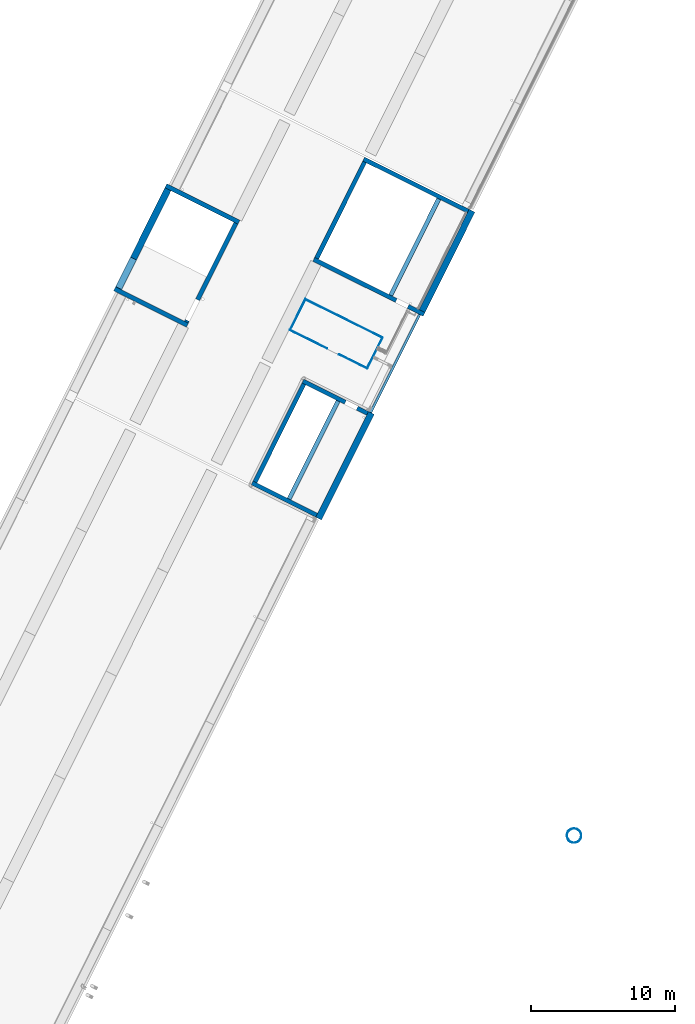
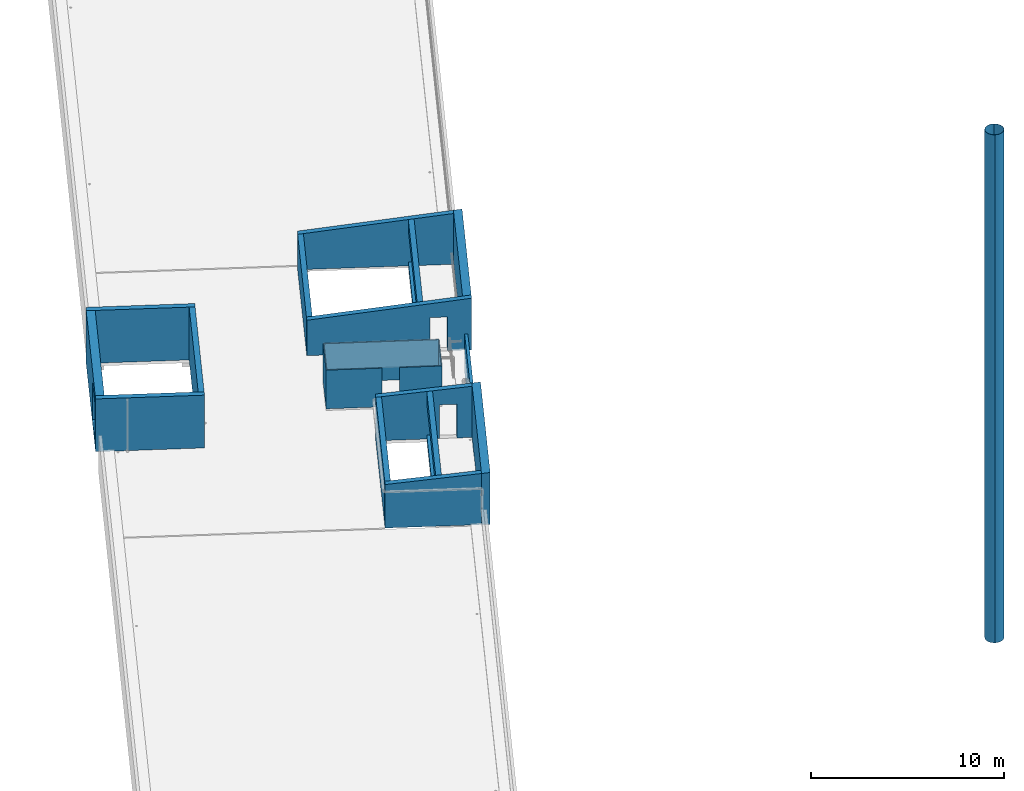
# One storey, part 5 of 34: 24 walls, 4 openings.
"""IFC2X3 building model written with IfcOpenShell, lengths in metres."""

from ifc_helpers import new_model, entity, si_unit, converted_unit, derived_unit, direction, frame, frame_2d, origin, origin_2d_with_axis, place, context, subcontext, project, spatial, polyline, circle_curve, parameter, trimmed, segment, composite_curve, rectangle, outline, extrude, clip, bounded_halfspace, material, layer, layer_set, layer_usage, type_object, element, save


model = new_model("IFC2X3")

# Units and contexts
model_context = context("Model", 3, precision=1e-05, world=origin(), true_north=direction((0.894925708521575, 0.446215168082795)))
context_of_model = context(None, 3, precision=1e-05, world=origin(), true_north=direction((0.894925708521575, 0.446215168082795)))
body_context = subcontext(model_context, "Body", "Model", "MODEL_VIEW")
ifc_project = project(units=[si_unit("LENGTHUNIT", "METRE"), si_unit("AREAUNIT", "SQUARE_METRE"), si_unit("VOLUMEUNIT", "CUBIC_METRE"), converted_unit("PLANEANGLEUNIT", "DEGREE", entity("IfcRatioMeasure", 0.0174532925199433), si_unit("PLANEANGLEUNIT", "RADIAN"), dimensions=[0, 0, 0, 0, 0, 0, 0]), si_unit("MASSUNIT", "GRAM", prefix="KILO"), si_unit("TIMEUNIT", "SECOND"), si_unit("FREQUENCYUNIT", "HERTZ"), si_unit("THERMODYNAMICTEMPERATUREUNIT", "DEGREE_CELSIUS"), derived_unit("THERMALTRANSMITTANCEUNIT", [(si_unit("MASSUNIT", "GRAM", prefix="KILO"), 1), (si_unit("THERMODYNAMICTEMPERATUREUNIT", "KELVIN"), -1), (si_unit("TIMEUNIT", "SECOND"), -3)]), derived_unit("VOLUMETRICFLOWRATEUNIT", [(si_unit("LENGTHUNIT", "METRE"), 3), (si_unit("TIMEUNIT", "SECOND"), -1)]), si_unit("ELECTRICCURRENTUNIT", "AMPERE"), si_unit("ELECTRICVOLTAGEUNIT", "VOLT"), si_unit("POWERUNIT", "WATT"), si_unit("FORCEUNIT", "NEWTON", prefix="KILO"), si_unit("ILLUMINANCEUNIT", "LUX"), si_unit("LUMINOUSFLUXUNIT", "LUMEN"), si_unit("LUMINOUSINTENSITYUNIT", "CANDELA"), si_unit("PRESSUREUNIT", "PASCAL")], contexts=[model_context, context_of_model])

# Site, building, storey
site_placement = place(None, frame((218.228324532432, 584.720189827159, 0.0), z_axis=(0.0, 0.0, 1.0), x_axis=(0.446215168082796, 0.894925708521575, 0.0)))
site = spatial("IfcSite", under=ifc_project, at=site_placement, Name="Default", CompositionType="ELEMENT")
building_placement = place(site_placement, origin())
building = spatial("IfcBuilding", under=site, at=building_placement, CompositionType="ELEMENT")
storey_placement = place(building_placement, frame((0.0, 0.0, 8.61)))
storey = spatial("IfcBuildingStorey", under=building, at=storey_placement, Name="2 - Piano Secondo", CompositionType="ELEMENT", Elevation=8.61)

# Wall, opening
ifc_material_1 = material(Name="Alluminio")
ifc_layer_1 = layer(ifc_material_1, 0.15)
ifc_material_2 = material(Name="Default - Calcestruzzo")
ifc_layer_2 = layer(ifc_material_2, 0.3)
ifc_material_3 = material(Name="Intonaco - Bianco")
ifc_layer_3 = layer(ifc_material_3, 0.02)
ifc_layer_set_1 = layer_set([ifc_layer_1, ifc_layer_2, ifc_layer_3], Name="Muro di base:Setto CA rivestito int-est 47 cm")
ifc_layer_usage_1 = layer_usage(ifc_layer_set_1, "AXIS2", "NEGATIVE", 0.235)
wall_type_1 = type_object("IfcWallType", Name="Muro di base:Setto CA rivestito int-est 47 cm", PredefinedType="STANDARD", material=ifc_layer_set_1)
wall_1_placement = place(storey_placement, frame((-4.67578502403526, 6.22392100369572, 0.0)))
wall_1 = element("IfcWallStandardCase", 1, at=wall_1_placement, inside=storey, type_object=wall_type_1, material=ifc_layer_usage_1, Name="Muro di base:Setto CA rivestito int-est 47 cm", ObjectType="Muro di base:Setto CA rivestito int-est 47 cm", context=body_context, shape_type="SweptSolid", body=[
    extrude(rectangle(XDim=7.68000000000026, YDim=0.469999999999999, at=frame_2d((3.84000000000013, 0.0), x_axis=(-1.0, 0.0))), origin(), (0.0, 0.0, 1.0), 3.34),
])
opening_1_placement = place(wall_1_placement, frame((0.0100000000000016, -1.289, 0.200000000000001)))
element("IfcOpeningElement", 2, at=opening_1_placement, cuts=wall_1, Name="Muro di base:Setto CA rivestito int-est 47 cm", ObjectType="Opening", context=body_context, shape_type="SweptSolid", body=[
    extrude(rectangle(XDim=2.47, YDim=2.3, at=frame_2d((1.11022302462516e-15, 0.0), x_axis=(1.0, 0.0))), frame((1.15, 0.0, 1.235), z_axis=(0.0, 1.0, 0.0), x_axis=(0.0, 0.0, -1.0)), (0.0, 0.0, 1.0), 3.048),
])

# Walls
ifc_layer_4 = layer(ifc_material_2, 0.3)
ifc_layer_5 = layer(ifc_material_3, 0.01)
ifc_layer_set_2 = layer_set([ifc_layer_4, ifc_layer_5], Name="Muro di base:Setto CA rivestito int - 31 cm")
ifc_layer_usage_2 = layer_usage(ifc_layer_set_2, "AXIS2", "NEGATIVE", 0.155)
wall_type_2 = type_object("IfcWallType", Name="Muro di base:Setto CA rivestito int - 31 cm", PredefinedType="STANDARD", material=ifc_layer_set_2)
wall_2_placement = place(storey_placement, frame((-4.83078502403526, 0.798921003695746, 0.0), z_axis=(0.0, 0.0, 1.0), x_axis=(0.0, 1.0, 0.0)))
element("IfcWallStandardCase", 3, at=wall_2_placement, inside=storey, type_object=wall_type_2, material=ifc_layer_usage_2, Name="Muro di base:Setto CA rivestito int - 31 cm", ObjectType="Muro di base:Setto CA rivestito int - 31 cm", context=body_context, shape_type="SweptSolid", body=[
    extrude(rectangle(XDim=5.65999999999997, YDim=0.31, at=frame_2d((2.82999999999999, 0.0), x_axis=(-1.0, 0.0))), origin(), (0.0, 0.0, 1.0), 3.34),
])
ifc_layer_usage_3 = layer_usage(ifc_layer_set_2, "AXIS2", "NEGATIVE", 0.155)
wall_3_placement = place(storey_placement, frame((3.159214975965, 6.45892100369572, 0.0), z_axis=(0.0, 0.0, 1.0), x_axis=(0.0, -1.0, 0.0)))
element("IfcWallStandardCase", 4, at=wall_3_placement, inside=storey, type_object=wall_type_2, material=ifc_layer_usage_3, Name="Muro di base:Setto CA rivestito int - 31 cm", ObjectType="Muro di base:Setto CA rivestito int - 31 cm", context=body_context, shape_type="SweptSolid", body=[
    extrude(rectangle(XDim=5.65999999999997, YDim=0.31, at=frame_2d((2.82999999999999, 0.0), x_axis=(-1.0, 0.0))), origin(), (0.0, 0.0, 1.0), 3.34),
])

# Wall, opening
ifc_layer_usage_4 = layer_usage(ifc_layer_set_2, "AXIS2", "NEGATIVE", 0.155)
wall_4_placement = place(storey_placement, frame((3.004214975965, 0.953921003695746, 0.0), z_axis=(0.0, 0.0, 1.0), x_axis=(-1.0, 0.0, 0.0)))
wall_4 = element("IfcWallStandardCase", 5, at=wall_4_placement, inside=storey, type_object=wall_type_2, material=ifc_layer_usage_4, Name="Muro di base:Setto CA rivestito int - 31 cm", ObjectType="Muro di base:Setto CA rivestito int - 31 cm", context=body_context, shape_type="SweptSolid", body=[
    extrude(rectangle(XDim=7.68000000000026, YDim=0.31, at=frame_2d((3.84000000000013, 0.0), x_axis=(-1.0, 0.0))), origin(), (0.0, 0.0, 1.0), 3.34),
])
opening_2_placement = place(wall_4_placement, frame((7.55000000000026, 1.369, 0.0)))
element("IfcOpeningElement", 6, at=opening_2_placement, cuts=wall_4, Name="Muro di base:Setto CA rivestito int - 31 cm", ObjectType="Opening", context=body_context, shape_type="SweptSolid", body=[
    extrude(rectangle(XDim=2.15, YDim=1.6, at=frame_2d((0.0, 0.0), x_axis=(0.0, 1.0))), frame((-0.8, -3.048, 1.075), z_axis=(0.0, 1.0, 0.0), x_axis=(1.0, 0.0, 0.0)), (0.0, 0.0, 1.0), 3.048),
])

# Walls
ifc_layer_6 = layer(ifc_material_1, 0.15)
ifc_layer_7 = layer(ifc_material_2, 0.3)
ifc_layer_set_3 = layer_set([ifc_layer_6, ifc_layer_7], Name="Muro di base:Setto CA rivestito est 45")
ifc_layer_usage_5 = layer_usage(ifc_layer_set_3, "AXIS2", "NEGATIVE", 0.225)
wall_type_3 = type_object("IfcWallType", Name="Muro di base:Setto CA rivestito est 45", PredefinedType="NOTDEFINED")
wall_5_placement = place(storey_placement, frame((-4.58437167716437, -13.3360789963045, 0.0), z_axis=(0.0, 0.0, 1.0), x_axis=(-1.0, 0.0, 0.0)))
element("IfcWallStandardCase", 7, at=wall_5_placement, inside=storey, type_object=wall_type_3, material=ifc_layer_usage_5, Name="Muro di base:Setto CA rivestito est 45", ObjectType="Muro di base:Setto CA rivestito est 45", context=body_context, shape_type="Clipping", body=[
    clip(extrude(rectangle(XDim=8.1999999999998, YDim=0.450000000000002, at=frame_2d((4.0999999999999, 9.43689570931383e-16), x_axis=(-1.0, 0.0))), origin(), (0.0, 0.0, 1.0), 3.92), bounded_halfspace(frame((0.0, -0.224999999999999, 3.23647100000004), z_axis=(0.0, -0.0966454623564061, 0.995318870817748), x_axis=(1.0, 0.0, 0.0)), False, frame((0.0, -0.224999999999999, 3.23647100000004)), polyline([(0.0, 0.0), (0.3, 0.0), (7.8999999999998, 0.0), (8.1999999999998, 0.0), (8.1999999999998, 0.450000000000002), (0.0, 0.45), (0.0, 0.0)]))),
])
ifc_layer_usage_6 = layer_usage(ifc_layer_set_3, "AXIS2", "NEGATIVE", 0.225)
wall_6_placement = place(storey_placement, frame((11.0942149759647, -13.3360789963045, 0.0), z_axis=(0.0, 0.0, 1.0), x_axis=(-1.0, 0.0, 0.0)))
element("IfcWallStandardCase", 8, at=wall_6_placement, inside=storey, type_object=wall_type_3, material=ifc_layer_usage_6, Name="Muro di base:Setto CA rivestito est 45", ObjectType="Muro di base:Setto CA rivestito est 45", context=body_context, shape_type="Clipping", body=[
    clip(extrude(rectangle(XDim=7.77999999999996, YDim=0.450000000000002, at=frame_2d((3.88999999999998, 4.71844785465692e-16), x_axis=(-1.0, 0.0))), origin(), (0.0, 0.0, 1.0), 3.92), bounded_halfspace(frame((0.0, -0.224999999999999, 3.21587629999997), z_axis=(0.0, -0.119468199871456, 0.992838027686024), x_axis=(1.0, 0.0, 0.0)), False, frame((0.0, -0.224999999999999, 3.21587629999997)), polyline([(0.0, 0.0), (0.299999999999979, 0.0), (7.77999999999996, 0.0), (7.77999999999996, 0.45), (0.0, 0.45), (0.0, 0.0)]))),
])
ifc_layer_8 = layer(ifc_material_2, 0.3)
ifc_layer_set_4 = layer_set([ifc_layer_8], Name="Muro di base:Setto CA - 30 cm")
ifc_layer_usage_7 = layer_usage(ifc_layer_set_4, "AXIS2", "NEGATIVE", 0.15)
wall_type_4 = type_object("IfcWallType", Name="Muro di base:Setto CA - 30 cm", PredefinedType="STANDARD", material=ifc_layer_set_4)
wall_7_placement = place(storey_placement, frame((-12.4843716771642, -10.9010789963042, 2.25)))
element("IfcWallStandardCase", 9, at=wall_7_placement, inside=storey, type_object=wall_type_4, material=ifc_layer_usage_7, Name="Muro di base:Setto CA - 30 cm", ObjectType="Muro di base:Setto CA - 30 cm", context=body_context, shape_type="Clipping", body=[
    clip(extrude(rectangle(XDim=7.5999999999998, YDim=0.300000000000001, at=frame_2d((3.7999999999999, -3.88578058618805e-16), x_axis=(-1.0, 0.0))), origin(), (0.0, 0.0, 1.0), 0.786445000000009), bounded_halfspace(frame((0.0, -0.149999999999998, 0.786445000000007), z_axis=(0.0, 0.0966454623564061, 0.995318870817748), x_axis=(-1.0, 0.0, 0.0)), False, frame((0.0, -0.149999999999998, 0.786445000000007)), polyline([(0.0, 0.0), (7.5999999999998, 0.0), (7.5999999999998, 0.299999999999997), (0.0, 0.299999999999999), (0.0, 0.0)]))),
])
ifc_layer_usage_8 = layer_usage(ifc_layer_set_4, "AXIS2", "NEGATIVE", 0.15)
wall_8_placement = place(storey_placement, frame((-12.6343716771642, -13.1110789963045, 0.0), z_axis=(0.0, 0.0, 1.0), x_axis=(0.0, 1.0, 0.0)))
element("IfcWallStandardCase", 10, at=wall_8_placement, inside=storey, type_object=wall_type_4, material=ifc_layer_usage_8, Name="Muro di base:Setto CA - 30 cm", ObjectType="Muro di base:Setto CA - 30 cm", context=body_context, shape_type="Clipping", body=[
    clip(extrude(rectangle(XDim=5.01000000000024, YDim=0.300000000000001, at=frame_2d((2.50500000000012, -5.41233724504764e-16), x_axis=(-1.0, 0.0))), origin(), (0.0, 0.0, 1.0), 3.92), bounded_halfspace(frame((0.0, -0.149999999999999, 3.23647100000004), z_axis=(0.0966454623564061, 0.0, 0.995318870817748), x_axis=(0.0, 1.0, 0.0)), False, frame((0.0, -0.149999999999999, 3.23647100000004)), polyline([(0.0, 0.0), (2.06000000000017, 0.0), (2.36000000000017, 0.0), (4.71000000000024, 0.0), (5.01000000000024, 0.0), (5.01000000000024, 0.299999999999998), (0.0, 0.299999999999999), (0.0, 0.0)]))),
])

# Wall, opening
ifc_layer_usage_9 = layer_usage(ifc_layer_set_4, "AXIS2", "NEGATIVE", 0.15)
wall_9_placement = place(storey_placement, frame((-4.73437167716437, -8.10107899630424, 0.0), z_axis=(0.0, 0.0, 1.0), x_axis=(0.0, -1.0, 0.0)))
wall_9 = element("IfcWallStandardCase", 11, at=wall_9_placement, inside=storey, type_object=wall_type_4, material=ifc_layer_usage_9, Name="Muro di base:Setto CA - 30 cm", ObjectType="Muro di base:Setto CA - 30 cm", context=body_context, shape_type="Clipping", body=[
    clip(extrude(rectangle(XDim=5.01000000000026, YDim=0.3, at=frame_2d((2.50500000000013, 0.0), x_axis=(-1.0, 0.0))), origin(), (0.0, 0.0, 1.0), 3.92), bounded_halfspace(frame((0.0, -0.15, 2.75), z_axis=(-0.0966454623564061, 0.0, 0.995318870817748), x_axis=(0.0, -1.0, 0.0)), False, frame((0.0, -0.15, 2.75)), polyline([(0.0, 0.0), (0.300000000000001, 0.0), (2.65000000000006, 0.0), (2.95000000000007, 0.0), (5.01000000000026, 0.0), (5.01000000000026, 0.3), (0.0, 0.3), (0.0, 0.0)]))),
])
opening_3_placement = place(wall_9_placement, frame((4.2150000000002, -1.674, 0.0)))
element("IfcOpeningElement", 12, at=opening_3_placement, cuts=wall_9, Name="Muro di base:Setto CA - 30 cm", ObjectType="Opening", context=body_context, shape_type="SweptSolid", body=[
    extrude(rectangle(XDim=2.134, YDim=0.915, at=frame_2d((0.0, 0.0), x_axis=(0.0, 1.0))), frame((-0.457500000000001, 0.0, 1.067), z_axis=(0.0, 1.0, 0.0), x_axis=(1.0, 0.0, 0.0)), (0.0, 0.0, 1.0), 3.048),
])

# Wall
ifc_layer_usage_10 = layer_usage(ifc_layer_set_4, "AXIS2", "NEGATIVE", 0.15)
wall_10_placement = place(storey_placement, frame((-12.4843716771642, -8.25107899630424, 0.0)))
element("IfcWallStandardCase", 13, at=wall_10_placement, inside=storey, type_object=wall_type_4, material=ifc_layer_usage_10, Name="Muro di base:Setto CA - 30 cm", ObjectType="Muro di base:Setto CA - 30 cm", context=body_context, shape_type="Clipping", body=[
    clip(extrude(rectangle(XDim=7.59999999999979, YDim=0.299999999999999, at=frame_2d((3.7999999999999, 0.0), x_axis=(-1.0, 0.0))), origin(), (0.0, 0.0, 1.0), 3.92), bounded_halfspace(frame((0.0, -0.150000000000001, 2.77913), z_axis=(0.0, 0.0966454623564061, 0.995318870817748), x_axis=(-1.0, 0.0, 0.0)), False, frame((0.0, -0.150000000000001, 2.77913)), polyline([(0.0, 0.0), (7.59999999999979, 0.0), (7.59999999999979, 0.3), (0.0, 0.3), (0.0, 0.0)]))),
])

# Wall, opening
ifc_layer_usage_11 = layer_usage(ifc_layer_set_4, "AXIS2", "NEGATIVE", 0.15)
wall_11_placement = place(storey_placement, frame((3.16421497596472, -13.5610789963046, 0.0), z_axis=(0.0, 0.0, 1.0), x_axis=(0.0, 1.0, 0.0)))
wall_11 = element("IfcWallStandardCase", 14, at=wall_11_placement, inside=storey, type_object=wall_type_4, material=ifc_layer_usage_11, Name="Muro di base:Setto CA - 30 cm", ObjectType="Muro di base:Setto CA - 30 cm", context=body_context, shape_type="Clipping", body=[
    clip(extrude(rectangle(XDim=8.56000000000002, YDim=0.3, at=frame_2d((4.28000000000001, 0.0), x_axis=(-1.0, 0.0))), origin(), (0.0, 0.0, 1.0), 3.92), bounded_halfspace(frame((0.0, -0.15, 3.27002479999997), z_axis=(0.119468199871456, 0.0, 0.992838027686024), x_axis=(0.0, 1.0, 0.0)), False, frame((0.0, -0.15, 3.27002479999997)), polyline([(0.0, 0.0), (0.449999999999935, 0.0), (2.51000000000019, 0.0), (2.8100000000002, 0.0), (8.26000000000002, 0.0), (8.56000000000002, 0.0), (8.56000000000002, 0.3), (0.0, 0.3), (0.0, 0.0)]))),
])
opening_4_placement = place(wall_11_placement, frame((1.24500000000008, 1.674, 0.0)))
element("IfcOpeningElement", 15, at=opening_4_placement, cuts=wall_11, Name="Muro di base:Setto CA - 30 cm", ObjectType="Opening", context=body_context, shape_type="SweptSolid", body=[
    extrude(rectangle(XDim=2.134, YDim=0.915, at=origin_2d_with_axis()), frame((0.4575, -3.048, 1.067), z_axis=(0.0, 1.0, 0.0), x_axis=(0.0, 0.0, -1.0)), (0.0, 0.0, 1.0), 3.048),
])

# Walls
ifc_layer_usage_12 = layer_usage(ifc_layer_set_4, "AXIS2", "NEGATIVE", 0.15)
wall_12_placement = place(storey_placement, frame((10.9442149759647, -5.00107899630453, 0.0), z_axis=(0.0, 0.0, 1.0), x_axis=(0.0, -1.0, 0.0)))
element("IfcWallStandardCase", 16, at=wall_12_placement, inside=storey, type_object=wall_type_4, material=ifc_layer_usage_12, Name="Muro di base:Setto CA - 30 cm", ObjectType="Muro di base:Setto CA - 30 cm", context=body_context, shape_type="Clipping", body=[
    clip(extrude(rectangle(XDim=8.10999999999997, YDim=0.300000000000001, at=frame_2d((4.05499999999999, -3.46944695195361e-16), x_axis=(-1.0, 0.0))), origin(), (0.0, 0.0, 1.0), 3.92), bounded_halfspace(frame((0.0, -0.149999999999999, 2.24), z_axis=(-0.119468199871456, 0.0, 0.992838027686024), x_axis=(0.0, -1.0, 0.0)), False, frame((0.0, -0.149999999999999, 2.24)), polyline([(0.0, 0.0), (0.300000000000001, 0.0), (5.74999999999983, 0.0), (6.04999999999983, 0.0), (8.10999999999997, 0.0), (8.10999999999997, 0.299999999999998), (0.0, 0.299999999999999), (0.0, 0.0)]))),
])
ifc_layer_usage_13 = layer_usage(ifc_layer_set_4, "AXIS2", "NEGATIVE", 0.15)
wall_13_placement = place(storey_placement, frame((3.31421497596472, -5.15107899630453, 0.0)))
element("IfcWallStandardCase", 17, at=wall_13_placement, inside=storey, type_object=wall_type_4, material=ifc_layer_usage_13, Name="Muro di base:Setto CA - 30 cm", ObjectType="Muro di base:Setto CA - 30 cm", context=body_context, shape_type="Clipping", body=[
    clip(extrude(rectangle(XDim=7.47999999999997, YDim=0.299999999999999, at=frame_2d((3.73999999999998, 5.55111512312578e-17), x_axis=(-1.0, 0.0))), origin(), (0.0, 0.0, 1.0), 3.92), bounded_halfspace(frame((0.0, -0.150000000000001, 2.276099), z_axis=(0.0, 0.119468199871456, 0.992838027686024), x_axis=(-1.0, 0.0, 0.0)), False, frame((0.0, -0.150000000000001, 2.276099)), polyline([(0.0, 0.0), (7.47999999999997, 0.0), (7.47999999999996, 0.3), (0.0, 0.3), (0.0, 0.0)]))),
])
ifc_layer_usage_14 = layer_usage(ifc_layer_set_4, "AXIS2", "NEGATIVE", 0.15)
wall_14_placement = place(storey_placement, frame((-12.4843716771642, -10.9010789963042, 0.0)))
element("IfcWallStandardCase", 18, at=wall_14_placement, inside=storey, type_object=wall_type_4, material=ifc_layer_usage_14, Name="Muro di base:Setto CA - 30 cm", ObjectType="Muro di base:Setto CA - 30 cm", context=body_context, shape_type="SweptSolid", body=[
    extrude(rectangle(XDim=7.5999999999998, YDim=0.300000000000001, at=frame_2d((3.7999999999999, -3.88578058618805e-16), x_axis=(-1.0, 0.0))), origin(), (0.0, 0.0, 1.0), 0.249999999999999),
])
ifc_layer_usage_15 = layer_usage(ifc_layer_set_4, "AXIS2", "NEGATIVE", 0.15)
wall_15_placement = place(storey_placement, frame((3.31421497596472, -10.9010789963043, 2.25)))
element("IfcWallStandardCase", 19, at=wall_15_placement, inside=storey, type_object=wall_type_4, material=ifc_layer_usage_15, Name="Muro di base:Setto CA - 30 cm", ObjectType="Muro di base:Setto CA - 30 cm", context=body_context, shape_type="Clipping", body=[
    clip(extrude(rectangle(XDim=7.47999999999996, YDim=0.300000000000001, at=frame_2d((3.73999999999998, 5.13478148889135e-16), x_axis=(-1.0, 0.0))), origin(), (0.0, 0.0, 1.0), 0.717996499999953), bounded_halfspace(frame((0.0, -0.149999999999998, 0.717996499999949), z_axis=(0.0, 0.119468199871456, 0.992838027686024), x_axis=(-1.0, 0.0, 0.0)), False, frame((0.0, -0.149999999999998, 0.717996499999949)), polyline([(0.0, 0.0), (7.47999999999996, 0.0), (7.47999999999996, 0.299999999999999), (0.0, 0.299999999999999), (0.0, 0.0)]))),
])
ifc_layer_usage_16 = layer_usage(ifc_layer_set_4, "AXIS2", "NEGATIVE", 0.15)
wall_16_placement = place(storey_placement, frame((3.31421497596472, -10.9010789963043, 0.0)))
element("IfcWallStandardCase", 20, at=wall_16_placement, inside=storey, type_object=wall_type_4, material=ifc_layer_usage_16, Name="Muro di base:Setto CA - 30 cm", ObjectType="Muro di base:Setto CA - 30 cm", context=body_context, shape_type="SweptSolid", body=[
    extrude(rectangle(XDim=7.47999999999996, YDim=0.300000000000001, at=frame_2d((3.73999999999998, -5.68989300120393e-16), x_axis=(-1.0, 0.0))), origin(), (0.0, 0.0, 1.0), 0.249999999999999),
])
ifc_layer_9 = layer(ifc_material_2, 0.17)
ifc_layer_set_5 = layer_set([ifc_layer_9], Name="Muro di base:Pannelli Pref - 17 cm")
ifc_layer_usage_17 = layer_usage(ifc_layer_set_5, "AXIS2", "NEGATIVE", 0.085)
wall_type_5 = type_object("IfcWallType", Name="Muro di base:Pannelli Pref - 17 cm", PredefinedType="STANDARD", material=ifc_layer_set_5)
wall_17_placement = place(storey_placement, frame((3.01421497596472, -13.2860789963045, -1.39), z_axis=(0.0, 0.0, 1.0), x_axis=(-1.0, 0.0, 0.0)))
element("IfcWallStandardCase", 21, at=wall_17_placement, inside=storey, type_object=wall_type_5, material=ifc_layer_usage_17, Name="Muro di base:Pannelli Pref - 17 cm", ObjectType="Muro di base:Pannelli Pref - 17 cm", context=body_context, shape_type="SweptSolid", body=[
    extrude(rectangle(XDim=7.59858665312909, YDim=0.17, at=frame_2d((3.79929332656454, 0.0), x_axis=(-1.0, 0.0))), origin(), (0.0, 0.0, 1.0), 2.4),
])
ifc_layer_10 = layer(ifc_material_1, 0.01)
ifc_layer_set_6 = layer_set([ifc_layer_10], Name="Muro di base:Lamierino")
ifc_layer_usage_18 = layer_usage(ifc_layer_set_6, "AXIS2", "POSITIVE", -0.00500000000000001)
wall_type_6 = type_object("IfcWallType", Name="Muro di base:Lamierino", PredefinedType="STANDARD", material=ifc_layer_set_6)
wall_18_placement = place(storey_placement, frame((-24.0736643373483, -39.0310243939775, 0.0)))
element("IfcWallStandardCase", 22, at=wall_18_placement, inside=storey, type_object=wall_type_6, material=ifc_layer_usage_18, Name="Muro di base:Lamierino", ObjectType="Muro di base:Lamierino", context=body_context, shape_type="SweptSolid", body=[
    extrude(outline(composite_curve([segment(trimmed(circle_curve(frame_2d((-0.494999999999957, 0.0), x_axis=(1.0, 0.0)), 0.499999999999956), [parameter(180.0)], [parameter(0.0)], True, "PARAMETER"), True, "CONTINUOUS"), segment(polyline([(0.00499999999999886, 0.0), (-0.00500000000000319, 0.0)]), True, "CONTINUOUS"), segment(trimmed(circle_curve(frame_2d((-0.494999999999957, 0.0), x_axis=(1.0, 0.0)), 0.489999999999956), [parameter(180.0)], [parameter(0.0)], True, "PARAMETER"), False, "CONTINUOUS"), segment(polyline([(-0.98499999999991, 0.0), (-0.994999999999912, 0.0)]), True, "CONTINUOUS")], self_intersect=False)), origin(), (0.0, 0.0, 1.0), 32.15),
])
ifc_layer_usage_19 = layer_usage(ifc_layer_set_6, "AXIS2", "POSITIVE", -0.00500000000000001)
wall_19_placement = place(storey_placement, frame((-25.0636643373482, -39.0310243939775, 0.0)))
element("IfcWallStandardCase", 23, at=wall_19_placement, inside=storey, type_object=wall_type_6, material=ifc_layer_usage_19, Name="Muro di base:Lamierino", ObjectType="Muro di base:Lamierino", context=body_context, shape_type="SweptSolid", body=[
    extrude(outline(composite_curve([segment(trimmed(circle_curve(frame_2d((0.494999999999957, 0.0), x_axis=(1.0, 0.0)), 0.499999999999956), [parameter(0.0)], [parameter(180.0)], True, "PARAMETER"), True, "CONTINUOUS"), segment(polyline([(-0.00499999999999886, 0.0), (0.00500000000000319, 0.0)]), True, "CONTINUOUS"), segment(trimmed(circle_curve(frame_2d((0.494999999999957, 0.0), x_axis=(1.0, 0.0)), 0.489999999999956), [parameter(0.0)], [parameter(180.0)], True, "PARAMETER"), False, "CONTINUOUS"), segment(polyline([(0.98499999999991, 0.0), (0.994999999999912, 0.0)]), True, "CONTINUOUS")], self_intersect=False)), origin(), (0.0, 0.0, 1.0), 32.15),
])
ifc_material_4 = material(Name="Acciaio")
ifc_layer_11 = layer(ifc_material_4, 0.05)
ifc_layer_set_7 = layer_set([ifc_layer_11], Name="Muro di base:Pareti container")
ifc_layer_usage_20 = layer_usage(ifc_layer_set_7, "AXIS2", "NEGATIVE", 0.025)
wall_type_7 = type_object("IfcWallType", Name="Muro di base:Pareti container", PredefinedType="STANDARD", material=ifc_layer_set_7)
wall_20_placement = place(storey_placement, frame((-1.94065899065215, -5.72245812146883, 0.1), z_axis=(0.0, 0.0, 1.0), x_axis=(0.999998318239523, 0.00183398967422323, 0.0)))
element("IfcWallStandardCase", 24, at=wall_20_placement, inside=storey, type_object=wall_type_7, material=ifc_layer_usage_20, Name="Muro di base:Pareti container", ObjectType="Muro di base:Pareti container", context=body_context, shape_type="Clipping", body=[
    clip(extrude(rectangle(XDim=2.38453502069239, YDim=0.0499999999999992, at=frame_2d((1.19226751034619, 1.49186218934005e-16), x_axis=(-1.0, 0.0))), origin(), (0.0, 0.0, 1.0), 2.55), bounded_halfspace(frame((0.0, -0.0249999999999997, 2.45), z_axis=(0.0, 0.0, 1.0), x_axis=(0.999998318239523, -0.00183398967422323, 0.0)), False, frame((0.0, -0.0249999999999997, 2.45)), polyline([(0.0, 0.0), (2.33453502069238, 0.0), (2.38453502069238, 0.0), (2.38453502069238, 0.0499999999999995), (0.0, 0.0499999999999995), (0.0, 0.0)]))),
])
ifc_layer_usage_21 = layer_usage(ifc_layer_set_7, "AXIS2", "NEGATIVE", 0.025)
wall_21_placement = place(storey_placement, frame((0.418917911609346, -5.7431307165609, 0.1), z_axis=(0.0, 0.0, 1.0), x_axis=(0.00183398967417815, -0.999998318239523, 0.0)))
element("IfcWallStandardCase", 25, at=wall_21_placement, inside=storey, type_object=wall_type_7, material=ifc_layer_usage_21, Name="Muro di base:Pareti container", ObjectType="Muro di base:Pareti container", context=body_context, shape_type="Clipping", body=[
    clip(extrude(rectangle(XDim=5.92933184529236, YDim=0.05, at=frame_2d((2.96466592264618, 2.25514051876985e-17), x_axis=(-1.0, 0.0))), origin(), (0.0, 0.0, 1.0), 2.55), bounded_halfspace(frame((0.0, -0.025, 2.45), z_axis=(0.0, 0.0, 1.0), x_axis=(0.00183398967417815, 0.999998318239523, 0.0)), False, frame((0.0, -0.025, 2.45)), polyline([(0.0, 0.0), (5.92933184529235, 0.0), (5.92933184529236, 0.0500000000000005), (0.0, 0.05), (0.0, 0.0)]))),
])
ifc_layer_usage_22 = layer_usage(ifc_layer_set_7, "AXIS2", "POSITIVE", -0.025)
wall_22_placement = place(storey_placement, frame((-1.92969295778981, -11.7017799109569, 0.1), z_axis=(0.0, 0.0, 1.0), x_axis=(0.999998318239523, 0.00183398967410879, 0.0)))
element("IfcWallStandardCase", 26, at=wall_22_placement, inside=storey, type_object=wall_type_7, material=ifc_layer_usage_22, Name="Muro di base:Pareti container", ObjectType="Muro di base:Pareti container", context=body_context, shape_type="Clipping", body=[
    clip(extrude(rectangle(XDim=2.3845350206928, YDim=0.0500000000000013, at=frame_2d((1.1922675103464, -2.25514051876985e-16), x_axis=(-1.0, 0.0))), origin(), (0.0, 0.0, 1.0), 32.15), bounded_halfspace(frame((0.0, -0.0249999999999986, 2.45), z_axis=(0.0, 0.0, 1.0), x_axis=(0.999998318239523, -0.00183398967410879, 0.0)), False, frame((0.0, -0.0249999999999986, 2.45)), polyline([(0.0, 0.0), (2.38453502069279, 0.0), (2.38453502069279, 0.0499999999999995), (2.33453502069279, 0.0499999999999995), (0.0, 0.0499999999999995), (0.0, 0.0)]))),
])
ifc_layer_usage_23 = layer_usage(ifc_layer_set_7, "AXIS2", "NEGATIVE", 0.025)
wall_23_placement = place(storey_placement, frame((-1.95464706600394, -11.7268257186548, 0.1), z_axis=(0.0, 0.0, 1.0), x_axis=(-0.0018339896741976, 0.999998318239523, 0.0)))
element("IfcWallStandardCase", 27, at=wall_23_placement, inside=storey, type_object=wall_type_7, material=ifc_layer_usage_23, Name="Muro di base:Pareti container", ObjectType="Muro di base:Pareti container", context=body_context, shape_type="Clipping", body=[
    clip(extrude(rectangle(XDim=2.20933184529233, YDim=0.0500000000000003, at=frame_2d((1.10466592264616, -3.46944695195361e-18), x_axis=(-1.0, 0.0))), origin(), (0.0, 0.0, 1.0), 32.15), bounded_halfspace(frame((0.0, -0.0249999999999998, 2.45), z_axis=(0.0, 0.0, 1.0), x_axis=(-0.0018339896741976, -0.999998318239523, 0.0)), False, frame((0.0, -0.0249999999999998, 2.45)), polyline([(0.0, 0.0), (0.0499999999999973, 0.0), (2.20933184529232, 0.0), (2.20933184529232, 0.0499999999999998), (0.0, 0.0499999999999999), (0.0, 0.0)]))),
])
ifc_layer_usage_24 = layer_usage(ifc_layer_set_7, "AXIS2", "NEGATIVE", 0.025)
wall_24_placement = place(storey_placement, frame((-1.96036788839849, -8.60749911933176, 0.1), z_axis=(0.0, 0.0, 1.0), x_axis=(-0.00183398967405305, 0.999998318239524, 0.0)))
element("IfcWallStandardCase", 28, at=wall_24_placement, inside=storey, type_object=wall_type_7, material=ifc_layer_usage_24, Name="Muro di base:Pareti container", ObjectType="Muro di base:Pareti container", context=body_context, shape_type="Clipping", body=[
    clip(extrude(rectangle(XDim=2.91000000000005, YDim=0.0500000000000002, at=frame_2d((1.45500000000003, -6.93889390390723e-18), x_axis=(-1.0, 0.0))), origin(), (0.0, 0.0, 1.0), 32.15), bounded_halfspace(frame((0.0, -0.0249999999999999, 2.45), z_axis=(0.0, 0.0, 1.0), x_axis=(-0.00183398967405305, -0.999998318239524, 0.0)), False, frame((0.0, -0.0249999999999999, 2.45)), polyline([(0.0, 0.0), (2.86000000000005, 0.0), (2.91000000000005, 0.0), (2.91000000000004, 0.05), (0.0, 0.0500000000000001), (0.0, 0.0)]))),
])

save(model, "model.ifc")
